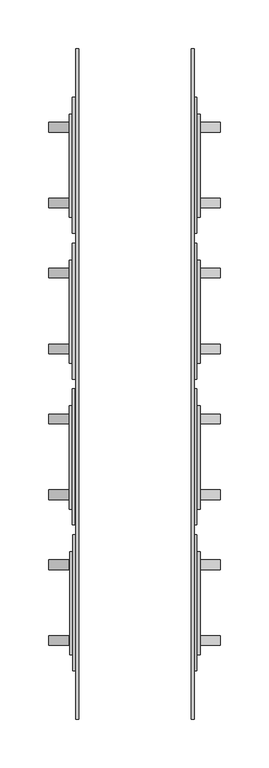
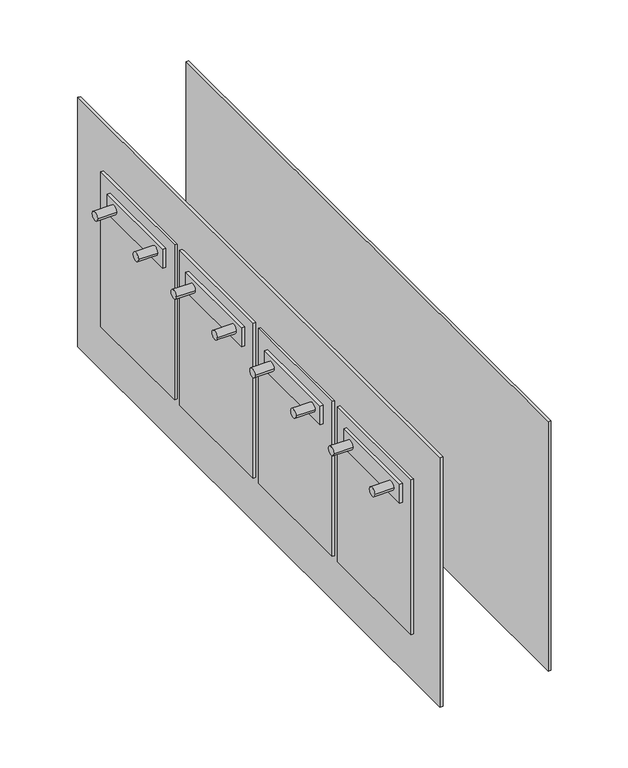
"""IFC4 building model written with IfcOpenShell, lengths in millimetres: proxy geometry, Distribution_Sockets_2 : Distribution_Sockets_2."""

from ifc_helpers import new_model, si_unit, point, frame, frame_2d, origin, place, context, project, spatial, polyline, circle_curve, trimmed, segment, composite_curve, outline, extrude, source, transform, mapped, element, save


def electrical_equipment_4dcd70bd(model_context):
    return source(origin(), model_context, "Body", "SweptSolid", [
        extrude(outline(polyline([(-57.0, 380.012381), (-57.0, -310.0000301), (-60.0, -310.0000301), (-60.0, 380.012381), (-57.0, 380.012381)])), frame((0.0, 0.0, -145.0), z_axis=(0.0, 0.0, 1.0), x_axis=(1.0, 0.0, 0.0)), (0.0, 0.0, 1.0), 290.0),
        extrude(outline(polyline([(62.0, -310.0000301), (59.0, -310.0000301), (59.0, 380.012381), (62.0, 380.012381), (62.0, -310.0000301)])), frame((0.0, 0.0, -145.0), z_axis=(0.0, 0.0, 1.0), x_axis=(1.0, 0.0, 0.0)), (0.0, 0.0, 1.0), 290.0),
        extrude(outline(composite_curve([segment(trimmed(circle_curve(frame_2d((-228.9209149, 65.938994)), 5.0), [point((-223.9209149, 65.938994))], [point((-233.9209149, 65.938994))], False, "CARTESIAN"), True, "CONTINUOUS"), segment(trimmed(circle_curve(frame_2d((-228.9209149, 65.938994)), 5.0), [point((-233.9209149, 65.938994))], [point((-223.9209149, 65.938994))], False, "CARTESIAN"), True, "CONTINUOUS")], self_intersect=False)), frame((-87.7704985, 0.0, 0.0), z_axis=(1.0, 0.0, 0.0), x_axis=(0.0, 1.0, 0.0)), (0.0, 0.0, 1.0), 20.9),
        extrude(outline(composite_curve([segment(trimmed(circle_curve(frame_2d((-150.9252282, 65.938994)), 5.0), [point((-145.9252282, 65.938994))], [point((-155.9252282, 65.938994))], False, "CARTESIAN"), True, "CONTINUOUS"), segment(trimmed(circle_curve(frame_2d((-150.9252282, 65.938994)), 5.0), [point((-155.9252282, 65.938994))], [point((-145.9252282, 65.938994))], False, "CARTESIAN"), True, "CONTINUOUS")], self_intersect=False)), frame((-87.7704985, 0.0, 0.0), z_axis=(1.0, 0.0, 0.0), x_axis=(0.0, 1.0, 0.0)), (0.0, 0.0, 1.0), 20.9),
        extrude(outline(composite_curve([segment(trimmed(circle_curve(frame_2d((-78.9085149, 65.938994)), 5.0), [point((-73.9085149, 65.938994))], [point((-83.9085149, 65.938994))], False, "CARTESIAN"), True, "CONTINUOUS"), segment(trimmed(circle_curve(frame_2d((-78.9085149, 65.938994)), 5.0), [point((-83.9085149, 65.938994))], [point((-73.9085149, 65.938994))], False, "CARTESIAN"), True, "CONTINUOUS")], self_intersect=False)), frame((-87.7704985, 0.0, 0.0), z_axis=(1.0, 0.0, 0.0), x_axis=(0.0, 1.0, 0.0)), (0.0, 0.0, 1.0), 20.9),
        extrude(outline(composite_curve([segment(trimmed(circle_curve(frame_2d((-0.9128282, 65.938994)), 5.0), [point((4.0871718, 65.938994))], [point((-5.9128282, 65.938994))], False, "CARTESIAN"), True, "CONTINUOUS"), segment(trimmed(circle_curve(frame_2d((-0.9128282, 65.938994)), 5.0), [point((-5.9128282, 65.938994))], [point((4.0871718, 65.938994))], False, "CARTESIAN"), True, "CONTINUOUS")], self_intersect=False)), frame((-87.7704985, 0.0, 0.0), z_axis=(1.0, 0.0, 0.0), x_axis=(0.0, 1.0, 0.0)), (0.0, 0.0, 1.0), 20.9),
        extrude(outline(composite_curve([segment(trimmed(circle_curve(frame_2d((71.0914851, 65.938994)), 5.0), [point((76.0914851, 65.938994))], [point((66.0914851, 65.938994))], False, "CARTESIAN"), True, "CONTINUOUS"), segment(trimmed(circle_curve(frame_2d((71.0914851, 65.938994)), 5.0), [point((66.0914851, 65.938994))], [point((76.0914851, 65.938994))], False, "CARTESIAN"), True, "CONTINUOUS")], self_intersect=False)), frame((-87.7704985, 0.0, 0.0), z_axis=(1.0, 0.0, 0.0), x_axis=(0.0, 1.0, 0.0)), (0.0, 0.0, 1.0), 20.9),
        extrude(outline(composite_curve([segment(trimmed(circle_curve(frame_2d((149.0871718, 65.938994)), 5.0), [point((154.0871718, 65.938994))], [point((144.0871718, 65.938994))], False, "CARTESIAN"), True, "CONTINUOUS"), segment(trimmed(circle_curve(frame_2d((149.0871718, 65.938994)), 5.0), [point((144.0871718, 65.938994))], [point((154.0871718, 65.938994))], False, "CARTESIAN"), True, "CONTINUOUS")], self_intersect=False)), frame((-87.7704985, 0.0, 0.0), z_axis=(1.0, 0.0, 0.0), x_axis=(0.0, 1.0, 0.0)), (0.0, 0.0, 1.0), 20.9),
        extrude(outline(composite_curve([segment(trimmed(circle_curve(frame_2d((221.0914851, 65.938994)), 5.0), [point((226.0914851, 65.938994))], [point((216.0914851, 65.938994))], False, "CARTESIAN"), True, "CONTINUOUS"), segment(trimmed(circle_curve(frame_2d((221.0914851, 65.938994)), 5.0), [point((216.0914851, 65.938994))], [point((226.0914851, 65.938994))], False, "CARTESIAN"), True, "CONTINUOUS")], self_intersect=False)), frame((-87.7704985, 0.0, 0.0), z_axis=(1.0, 0.0, 0.0), x_axis=(0.0, 1.0, 0.0)), (0.0, 0.0, 1.0), 20.9),
        extrude(outline(composite_curve([segment(trimmed(circle_curve(frame_2d((299.0871718, 65.938994)), 5.0), [point((304.0871718, 65.938994))], [point((294.0871718, 65.938994))], False, "CARTESIAN"), True, "CONTINUOUS"), segment(trimmed(circle_curve(frame_2d((299.0871718, 65.938994)), 5.0), [point((294.0871718, 65.938994))], [point((304.0871718, 65.938994))], False, "CARTESIAN"), True, "CONTINUOUS")], self_intersect=False)), frame((-87.7704985, 0.0, 0.0), z_axis=(1.0, 0.0, 0.0), x_axis=(0.0, 1.0, 0.0)), (0.0, 0.0, 1.0), 20.9),
        extrude(outline(composite_curve([segment(trimmed(circle_curve(frame_2d((-228.9209149, 65.938994)), 5.0), [point((-223.9209149, 65.938994))], [point((-233.9209149, 65.938994))], False, "CARTESIAN"), True, "CONTINUOUS"), segment(trimmed(circle_curve(frame_2d((-228.9209149, 65.938994)), 5.0), [point((-233.9209149, 65.938994))], [point((-223.9209149, 65.938994))], False, "CARTESIAN"), True, "CONTINUOUS")], self_intersect=False)), frame((68.000002, 0.0, 0.0), z_axis=(1.0, 0.0, 0.0), x_axis=(0.0, 1.0, 0.0)), (0.0, 0.0, 1.0), 20.9544995),
        extrude(outline(composite_curve([segment(trimmed(circle_curve(frame_2d((-150.9252282, 65.938994)), 5.0), [point((-145.9252282, 65.938994))], [point((-155.9252282, 65.938994))], False, "CARTESIAN"), True, "CONTINUOUS"), segment(trimmed(circle_curve(frame_2d((-150.9252282, 65.938994)), 5.0), [point((-155.9252282, 65.938994))], [point((-145.9252282, 65.938994))], False, "CARTESIAN"), True, "CONTINUOUS")], self_intersect=False)), frame((68.000002, 0.0, 0.0), z_axis=(1.0, 0.0, 0.0), x_axis=(0.0, 1.0, 0.0)), (0.0, 0.0, 1.0), 20.9544995),
        extrude(outline(composite_curve([segment(trimmed(circle_curve(frame_2d((-78.9085149, 65.938994)), 5.0), [point((-73.9085149, 65.938994))], [point((-83.9085149, 65.938994))], False, "CARTESIAN"), True, "CONTINUOUS"), segment(trimmed(circle_curve(frame_2d((-78.9085149, 65.938994)), 5.0), [point((-83.9085149, 65.938994))], [point((-73.9085149, 65.938994))], False, "CARTESIAN"), True, "CONTINUOUS")], self_intersect=False)), frame((68.000002, 0.0, 0.0), z_axis=(1.0, 0.0, 0.0), x_axis=(0.0, 1.0, 0.0)), (0.0, 0.0, 1.0), 20.9544995),
        extrude(outline(composite_curve([segment(trimmed(circle_curve(frame_2d((-0.9128282, 65.938994)), 5.0), [point((4.0871718, 65.938994))], [point((-5.9128282, 65.938994))], False, "CARTESIAN"), True, "CONTINUOUS"), segment(trimmed(circle_curve(frame_2d((-0.9128282, 65.938994)), 5.0), [point((-5.9128282, 65.938994))], [point((4.0871718, 65.938994))], False, "CARTESIAN"), True, "CONTINUOUS")], self_intersect=False)), frame((68.000002, 0.0, 0.0), z_axis=(1.0, 0.0, 0.0), x_axis=(0.0, 1.0, 0.0)), (0.0, 0.0, 1.0), 20.9544995),
        extrude(outline(composite_curve([segment(trimmed(circle_curve(frame_2d((71.0914851, 65.938994)), 5.0), [point((76.0914851, 65.938994))], [point((66.0914851, 65.938994))], False, "CARTESIAN"), True, "CONTINUOUS"), segment(trimmed(circle_curve(frame_2d((71.0914851, 65.938994)), 5.0), [point((66.0914851, 65.938994))], [point((76.0914851, 65.938994))], False, "CARTESIAN"), True, "CONTINUOUS")], self_intersect=False)), frame((68.000002, 0.0, 0.0), z_axis=(1.0, 0.0, 0.0), x_axis=(0.0, 1.0, 0.0)), (0.0, 0.0, 1.0), 20.9544995),
        extrude(outline(composite_curve([segment(trimmed(circle_curve(frame_2d((149.0871718, 65.938994)), 5.0), [point((154.0871718, 65.938994))], [point((144.0871718, 65.938994))], False, "CARTESIAN"), True, "CONTINUOUS"), segment(trimmed(circle_curve(frame_2d((149.0871718, 65.938994)), 5.0), [point((144.0871718, 65.938994))], [point((154.0871718, 65.938994))], False, "CARTESIAN"), True, "CONTINUOUS")], self_intersect=False)), frame((68.000002, 0.0, 0.0), z_axis=(1.0, 0.0, 0.0), x_axis=(0.0, 1.0, 0.0)), (0.0, 0.0, 1.0), 20.9544995),
        extrude(outline(composite_curve([segment(trimmed(circle_curve(frame_2d((221.0914851, 65.938994)), 5.0), [point((226.0914851, 65.938994))], [point((216.0914851, 65.938994))], False, "CARTESIAN"), True, "CONTINUOUS"), segment(trimmed(circle_curve(frame_2d((221.0914851, 65.938994)), 5.0), [point((216.0914851, 65.938994))], [point((226.0914851, 65.938994))], False, "CARTESIAN"), True, "CONTINUOUS")], self_intersect=False)), frame((68.000002, 0.0, 0.0), z_axis=(1.0, 0.0, 0.0), x_axis=(0.0, 1.0, 0.0)), (0.0, 0.0, 1.0), 20.9544995),
        extrude(outline(composite_curve([segment(trimmed(circle_curve(frame_2d((299.0871718, 65.938994)), 5.0), [point((304.0871718, 65.938994))], [point((294.0871718, 65.938994))], False, "CARTESIAN"), True, "CONTINUOUS"), segment(trimmed(circle_curve(frame_2d((299.0871718, 65.938994)), 5.0), [point((294.0871718, 65.938994))], [point((304.0871718, 65.938994))], False, "CARTESIAN"), True, "CONTINUOUS")], self_intersect=False)), frame((68.000002, 0.0, 0.0), z_axis=(1.0, 0.0, 0.0), x_axis=(0.0, 1.0, 0.0)), (0.0, 0.0, 1.0), 20.9544995),
        extrude(outline(polyline([(-65.9999982, -137.6198547), (-62.9999982, -137.6198547), (-62.9999982, -243.6199253), (-65.9999982, -243.6199253), (-65.9999982, -137.6198547)])), frame((0.0, 0.0, 54.0), z_axis=(0.0, 0.0, 1.0), x_axis=(1.0, 0.0, 0.0)), (0.0, 0.0, 1.0), 22.0),
        extrude(outline(polyline([(-66.7410021, 12.3926456), (-63.3705021, 12.3926456), (-63.3705021, -93.6074249), (-66.7410021, -93.6074249), (-66.7410021, 12.3926456)])), frame((0.0, 0.0, 54.0), z_axis=(0.0, 0.0, 1.0), x_axis=(1.0, 0.0, 0.0)), (0.0, 0.0, 1.0), 22.0),
        extrude(outline(polyline([(-66.7409978, 162.3926094), (-63.3704978, 162.3926094), (-63.3704978, 56.3925388), (-66.7409978, 56.3925388), (-66.7409978, 162.3926094)])), frame((0.0, 0.0, 54.0), z_axis=(0.0, 0.0, 1.0), x_axis=(1.0, 0.0, 0.0)), (0.0, 0.0, 1.0), 22.0),
        extrude(outline(polyline([(-66.7409978, 312.3926094), (-63.3704978, 312.3926094), (-63.3704978, 206.3925388), (-66.7409978, 206.3925388), (-66.7409978, 312.3926094)])), frame((0.0, 0.0, 54.0), z_axis=(0.0, 0.0, 1.0), x_axis=(1.0, 0.0, 0.0)), (0.0, 0.0, 1.0), 22.0),
        extrude(outline(polyline([(68.000002, -137.6198547), (68.000002, -243.6199253), (64.629502, -243.6199253), (64.629502, -137.6198547), (68.000002, -137.6198547)])), frame((0.0, 0.0, 54.0), z_axis=(0.0, 0.0, 1.0), x_axis=(1.0, 0.0, 0.0)), (0.0, 0.0, 1.0), 22.0),
        extrude(outline(polyline([(68.0000062, 12.3926456), (68.0000062, -93.6074249), (64.6295062, -93.6074249), (64.6295062, 12.3926456), (68.0000062, 12.3926456)])), frame((0.0, 0.0, 54.0), z_axis=(0.0, 0.0, 1.0), x_axis=(1.0, 0.0, 0.0)), (0.0, 0.0, 1.0), 22.0),
        extrude(outline(polyline([(68.000002, 162.3926094), (68.000002, 56.3925388), (64.629502, 56.3925388), (64.629502, 162.3926094), (68.000002, 162.3926094)])), frame((0.0, 0.0, 54.0), z_axis=(0.0, 0.0, 1.0), x_axis=(1.0, 0.0, 0.0)), (0.0, 0.0, 1.0), 22.0),
        extrude(outline(polyline([(68.000002, 312.3926094), (68.000002, 206.3925388), (64.629502, 206.3925388), (64.629502, 312.3926094), (68.000002, 312.3926094)])), frame((0.0, 0.0, 54.0), z_axis=(0.0, 0.0, 1.0), x_axis=(1.0, 0.0, 0.0)), (0.0, 0.0, 1.0), 22.0),
        extrude(outline(polyline([(-62.9999982, -260.0000301), (-62.9999982, -120.0), (-59.9999982, -120.0), (-59.9999982, -260.0000301), (-62.9999982, -260.0000301)])), frame((0.0, 0.0, -90.0), z_axis=(0.0, 0.0, 1.0), x_axis=(1.0, 0.0, 0.0)), (0.0, 0.0, 1.0), 180.0),
        extrude(outline(polyline([(64.6295042, -260.0000301), (61.2590045, -260.0000301), (61.2590045, -120.0), (64.6295042, -120.0), (64.6295042, -260.0000301)])), frame((0.0, 0.0, -90.0), z_axis=(0.0, 0.0, 1.0), x_axis=(1.0, 0.0, 0.0)), (0.0, 0.0, 1.0), 180.0),
        extrude(outline(polyline([(-63.3704956, -109.9876751), (-63.3704956, 30.012355), (-60.7409985, 30.012355), (-60.7409985, -109.9876751), (-63.3704956, -109.9876751)])), frame((0.0, 0.0, -90.0), z_axis=(0.0, 0.0, 1.0), x_axis=(1.0, 0.0, 0.0)), (0.0, 0.0, 1.0), 180.0),
        extrude(outline(polyline([(64.6295042, -109.9876751), (61.2590045, -109.9876751), (61.2590045, 30.012355), (64.6295042, 30.012355), (64.6295042, -109.9876751)])), frame((0.0, 0.0, -90.0), z_axis=(0.0, 0.0, 1.0), x_axis=(1.0, 0.0, 0.0)), (0.0, 0.0, 1.0), 180.0),
        extrude(outline(polyline([(-63.3704978, 40.0123509), (-63.3704978, 180.012381), (-60.0, 180.012381), (-60.0, 40.0123509), (-63.3704978, 40.0123509)])), frame((0.0, 0.0, -90.0), z_axis=(0.0, 0.0, 1.0), x_axis=(1.0, 0.0, 0.0)), (0.0, 0.0, 1.0), 180.0),
        extrude(outline(polyline([(64.629502, 40.0123509), (62.0, 40.0123509), (62.0, 180.012381), (64.629502, 180.012381), (64.629502, 40.0123509)])), frame((0.0, 0.0, -90.0), z_axis=(0.0, 0.0, 1.0), x_axis=(1.0, 0.0, 0.0)), (0.0, 0.0, 1.0), 180.0),
        extrude(outline(polyline([(-63.3704978, 190.0123509), (-63.3704978, 330.012381), (-60.0, 330.012381), (-60.0, 190.0123509), (-63.3704978, 190.0123509)])), frame((0.0, 0.0, -90.0), z_axis=(0.0, 0.0, 1.0), x_axis=(1.0, 0.0, 0.0)), (0.0, 0.0, 1.0), 180.0),
        extrude(outline(polyline([(64.629502, 190.0123509), (62.0, 190.0123509), (62.0, 330.012381), (64.629502, 330.012381), (64.629502, 190.0123509)])), frame((0.0, 0.0, -90.0), z_axis=(0.0, 0.0, 1.0), x_axis=(1.0, 0.0, 0.0)), (0.0, 0.0, 1.0), 180.0),
    ])


if __name__ == "__main__":
    model = new_model("IFC4")
    model_context = context("Model", 3, world=origin())
    ifc_project = project(units=[si_unit("LENGTHUNIT", "METRE", prefix="MILLI")], contexts=[model_context])
    site = spatial("IfcSite", under=ifc_project)
    building = spatial("IfcBuilding", under=site)
    placement = place(None, origin())
    electrical_equipment_shape = electrical_equipment_4dcd70bd(model_context)
    element("IfcBuildingElementProxy", 1, Name="Distribution_Sockets_2 : Distribution_Sockets_2", ObjectType="Distribution_Sockets_2 : Distribution_Sockets_2", at=placement, inside=building, context=model_context, shape_type="MappedRepresentation", body=[
        mapped(electrical_equipment_shape, transform((0.0, 0.0, 0.0), x_axis=(1.0, 0.0, 0.0), y_axis=(0.0, 1.0, 0.0), z_axis=(0.0, 0.0, 1.0))),
    ])
    save(model, "model.ifc")
